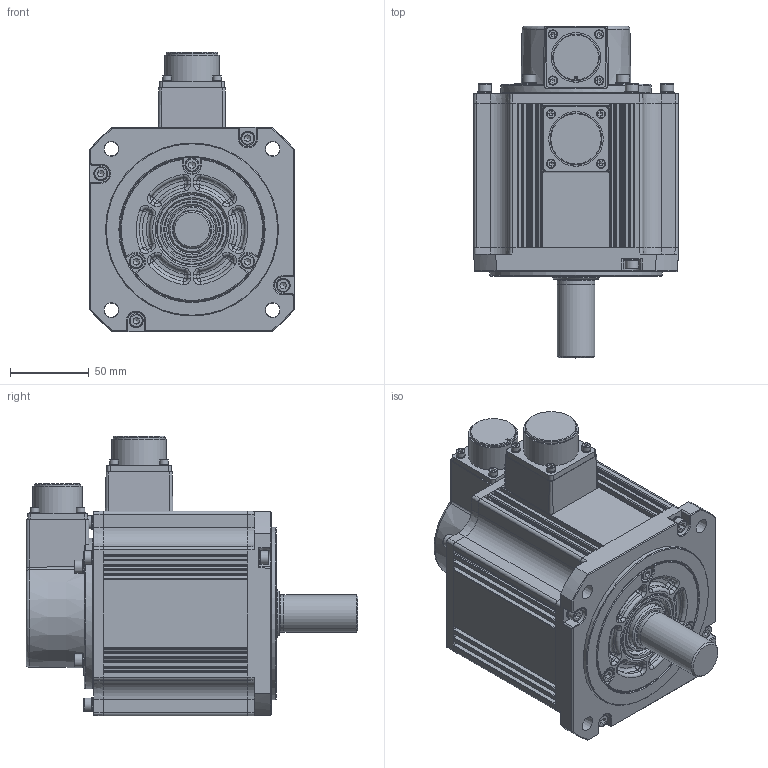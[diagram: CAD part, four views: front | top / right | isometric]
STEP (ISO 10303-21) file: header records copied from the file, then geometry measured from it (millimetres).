
FILE_DESCRIPTION((''),'2;1');
FILE_NAME('C:\Documents and Settings\11644\桌面\SME-L200.stp','2016-07-15T18:40:48',('11644'),(''),'Autodesk Inventor 2008','Autodesk Inventor 2008','');
FILE_SCHEMA(('AUTOMOTIVE_DESIGN { 1 0 10303 214 1 1 1 1 }'));
Length unit declared in the file: millimetre
Products named in the file (2): SME-L200; SME-L200_3
Assembly tree (1 placements, depth 2):
  SME-L200
    SME-L200_3
Bounding box: 130 x 211 x 177.7 mm (x, y, z)
Volume: 2034885.9 mm3; surface area: 146934.1 mm2
Topology: 1 solids, 1 shells, 997 faces, 2493 edges, 1564 vertices
Faces by surface type: plane 454, cylinder 295, torus 113, cone 69, bspline 58, sphere 8
Full cylindrical faces by diameter (mm): 5.5 x8, 5.82 x8, 8.5 x15, 8.97 x15, 23.8 x1, 24 x1, 29.5 x1, 30 x1, 31.5 x1, 33 x1, 34.7 x1, 35.319 x1, 40.504 x1, 45 x1, 92 x1, 95.8 x1, 110 x1
Entity records: 31369 total; most frequent: CARTESIAN_POINT 7983, DIRECTION 4667, ORIENTED_EDGE 4416, EDGE_CURVE 2208, AXIS2_PLACEMENT_3D 1783, VERTEX_POINT 1455, EDGE_LOOP 1247, VECTOR 1101
